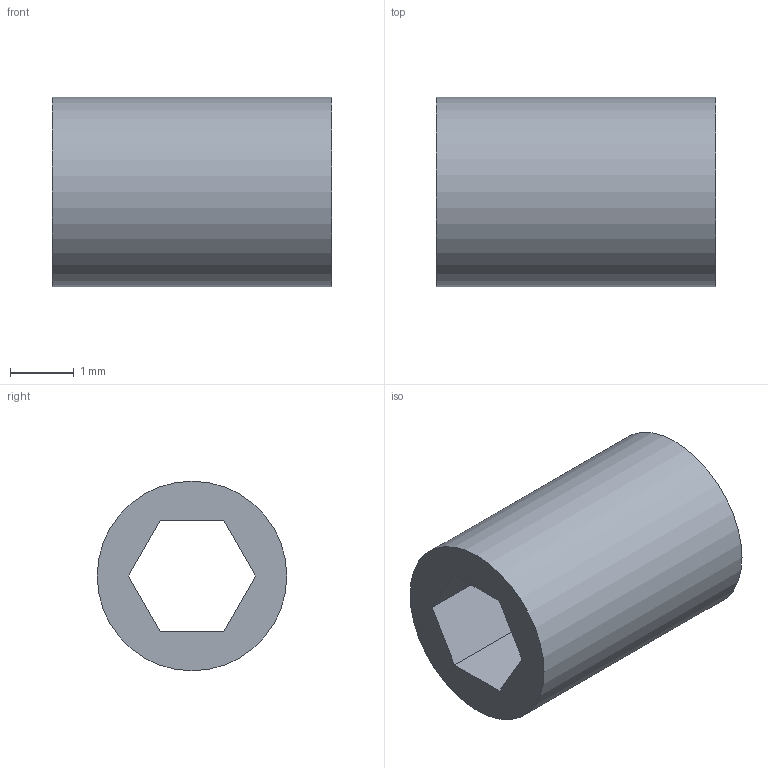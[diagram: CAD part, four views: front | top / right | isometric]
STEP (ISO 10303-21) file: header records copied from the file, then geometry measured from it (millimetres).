
FILE_DESCRIPTION(('Open CASCADE Model'),'2;1');
FILE_NAME('Open CASCADE Shape Model','2026-10-16T20:10:46',('Author'),( 'Open CASCADE'),'Open CASCADE STEP processor 7.9','Open CASCADE 7.9' ,'Unknown');
FILE_SCHEMA(('AUTOMOTIVE_DESIGN { 1 0 10303 214 1 1 1 1 }'));
Length unit declared in the file: millimetre
Products named in the file (1): Open CASCADE STEP translator 7.9 61
Bounding box: 4.4 x 2.98 x 2.98 mm (x, y, z)
Volume: 19.3 mm3; surface area: 76.3 mm2
Topology: 1 solids, 1 shells, 9 faces, 21 edges, 14 vertices
Faces by surface type: plane 8, cylinder 1
Full cylindrical faces by diameter (mm): 2.98 x1
Entity records: 550 total; most frequent: CARTESIAN_POINT 99, DIRECTION 83, LINE 59, VECTOR 59, ORIENTED_EDGE 42, PCURVE 42, DEFINITIONAL_REPRESENTATION 42, EDGE_CURVE 21
